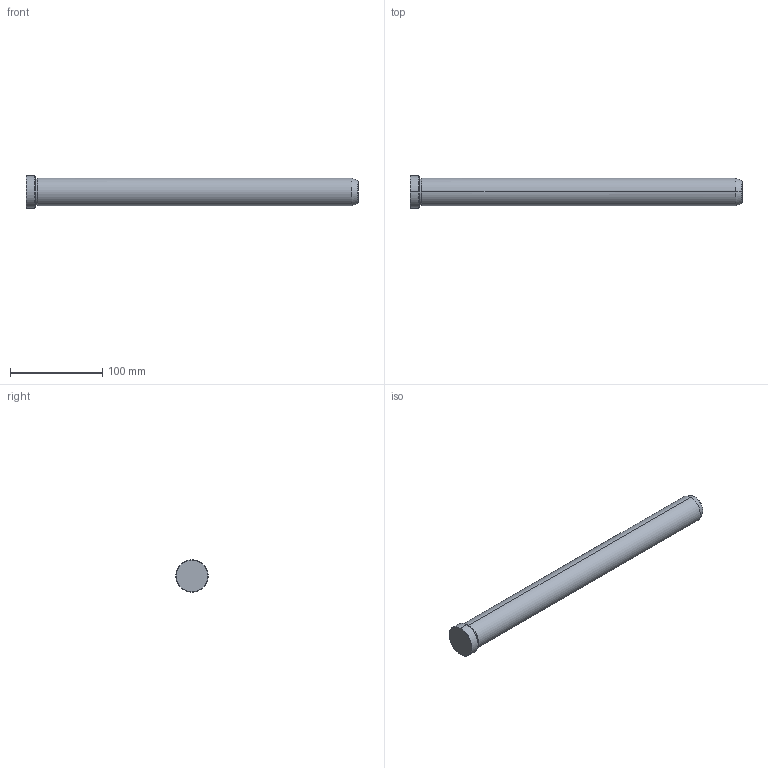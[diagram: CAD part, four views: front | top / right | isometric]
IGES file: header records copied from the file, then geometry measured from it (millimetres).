
Start section: START RECORD GO HERE.
Global section: file name: 549-30X360.igs; native system: DASSAULT SYSTEMES CATIA V5 R20 - www.3ds.com; preprocessor: CATIA Version 5 Release 20 ; author: Utente; organization: NB04-ASUS; date: 20211217.163611; units: millimetre
Bounding box: 360 x 35 x 35 mm (x, y, z)
Surface area: 35753.4 mm2 (no closed solid volume)
Topology: 0 solids, 0 shells, 19 faces, 112 edges, 112 vertices
Faces by surface type: revolution 16, plane 3
